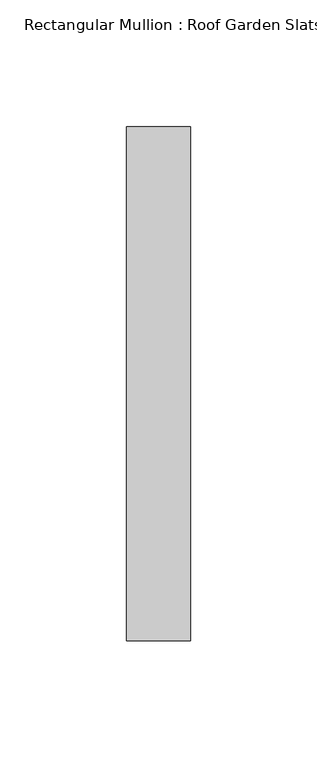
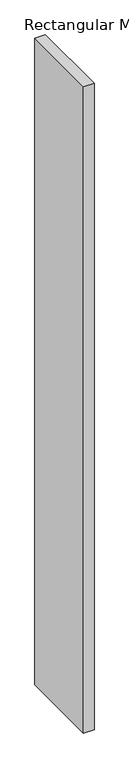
"""IFC4 building model written with IfcOpenShell, lengths in millimetres: member geometry, Rectangular Mullion : Roof Garden Slats."""

import ifcopenshell
import ifcopenshell.guid

model = None  # the IFC model being written
_history = None  # IfcOwnerHistory: only IFC2X3 demands one
_inside = {}  # id of a spatial element -> (the spatial element, [elements in it])
_under = {}  # id of a project, library or spatial element -> (it, [spatial elements below it])
_declared = {}  # id of a project -> (the project, [libraries it declares])
_typed = {}  # id of a type object -> (the type object, [elements of that type])
_made_of = {}  # id of a material, layer set ... -> (it, [elements and type objects made of it])


def new_model(schema):
    """Start an empty IFC model of exactly this schema.

    Asked for "IFC4X3", IfcOpenShell would pick the latest addendum, in which some entities
    have other attributes; the version numbers below select the first issue.
    IFC2X3 requires an IfcOwnerHistory on every rooted entity: one is made here for all.
    """
    global model, _history
    if schema == "IFC4X3":
        model = ifcopenshell.file(schema_version=(4, 3, 0, 0))
    else:
        model = ifcopenshell.file(schema=schema)
    _inside.clear()
    _under.clear()
    _declared.clear()
    _typed.clear()
    _made_of.clear()
    _history = None
    if model.schema == "IFC2X3":
        org = make("IfcOrganization", Name="unknown")
        user = make(
            "IfcPersonAndOrganization",
            ThePerson=make("IfcPerson", FamilyName="unknown"),
            TheOrganization=org,
        )
        app = make(
            "IfcApplication",
            ApplicationDeveloper=org,
            Version="unknown",
            ApplicationFullName="unknown",
            ApplicationIdentifier="unknown",
        )
        _history = make(
            "IfcOwnerHistory",
            OwningUser=user,
            OwningApplication=app,
            ChangeAction="ADDED",
            CreationDate=0,
        )
    return model


def make(cls, **values):
    """One entity of the class cls with the attributes given. An attribute that is None is left unset."""
    return model.create_entity(
        cls, **{name: value for name, value in values.items() if value is not None}
    )


def rooted(cls, **values):
    """An entity with a GlobalId (a new one), such as an element, a storey or a relation."""
    return make(cls, GlobalId=ifcopenshell.guid.new(), OwnerHistory=_history, **values)


def si_unit(unit_type, name, prefix=None):
    """IfcSIUnit, for example si_unit("LENGTHUNIT", "METRE", prefix="MILLI")."""
    return make("IfcSIUnit", UnitType=unit_type, Prefix=prefix, Name=name)


def assignment(units):
    """IfcUnitAssignment: the units of a project."""
    return None if units is None else make("IfcUnitAssignment", Units=units)


def point(xyz):
    """IfcCartesianPoint."""
    return None if xyz is None else make("IfcCartesianPoint", Coordinates=xyz)


def direction(xyz):
    """IfcDirection."""
    return None if xyz is None else make("IfcDirection", DirectionRatios=xyz)


def frame(location, z_axis=None, x_axis=None):
    """IfcAxis2Placement3D, a coordinate frame: its origin and axes. An axis left out is left unset."""
    return make(
        "IfcAxis2Placement3D",
        Location=point(location),
        Axis=direction(z_axis),
        RefDirection=direction(x_axis),
    )


def origin():
    """The frame at (0, 0, 0) with its axes left unset."""
    return frame((0.0, 0.0, 0.0))


def place(relative_to, where):
    """IfcLocalPlacement: puts the frame where relative to a parent placement (None: the world)."""
    return make(
        "IfcLocalPlacement", PlacementRelTo=relative_to, RelativePlacement=where
    )


def context(
    kind, dimensions, precision=None, world=None, true_north=None, identifier=None
):
    """IfcGeometricRepresentationContext, for example the 3D "Model" context."""
    return make(
        "IfcGeometricRepresentationContext",
        ContextIdentifier=identifier,
        ContextType=kind,
        CoordinateSpaceDimension=dimensions,
        Precision=precision,
        WorldCoordinateSystem=world,
        TrueNorth=true_north,
    )


def project(units=None, contexts=None):
    """IfcProject with its units and contexts."""
    return rooted(
        "IfcProject",
        Name="project",
        RepresentationContexts=contexts,
        UnitsInContext=assignment(units),
    )


def spatial(cls, under=None, at=None, **own):
    """A site, building, storey or space (cls), placed at a placement, below another one or the project."""
    s = rooted(cls, ObjectPlacement=at, **own)
    if under is not None:
        _under.setdefault(under.id(), (under, []))[1].append(s)
    return s


def polyline(points):
    """IfcPolyline through the points."""
    return make("IfcPolyline", Points=[point(p) for p in points])


def outline(outer, holes=None, kind="AREA"):
    """IfcArbitraryClosedProfileDef: a profile drawn as a closed curve; with holes, ...WithVoids."""
    if holes is None:
        return make("IfcArbitraryClosedProfileDef", ProfileType=kind, OuterCurve=outer)
    return make(
        "IfcArbitraryProfileDefWithVoids",
        ProfileType=kind,
        OuterCurve=outer,
        InnerCurves=holes,
    )


def extrude(swept, where, along, depth):
    """IfcExtrudedAreaSolid: the profile swept, set in the frame where, extruded along a direction by depth."""
    return make(
        "IfcExtrudedAreaSolid",
        SweptArea=swept,
        Position=where,
        ExtrudedDirection=direction(along),
        Depth=depth,
    )


def shape(context_of_items, identifier, shape_type, items):
    """IfcShapeRepresentation: the items that make up one representation, for example the "Body"."""
    return make(
        "IfcShapeRepresentation",
        ContextOfItems=context_of_items,
        RepresentationIdentifier=identifier,
        RepresentationType=shape_type,
        Items=items,
    )


def source(mapping_origin, context_of_items, identifier, shape_type, items):
    """IfcRepresentationMap: a shape defined once, which mapped items show again and again."""
    return make(
        "IfcRepresentationMap",
        MappingOrigin=mapping_origin,
        MappedRepresentation=shape(context_of_items, identifier, shape_type, items),
    )


def transform(
    local_origin,
    x_axis=None,
    y_axis=None,
    z_axis=None,
    scale=None,
    scale2=None,
    scale3=None,
    uniform=True,
):
    """IfcCartesianTransformationOperator3D, or its non-uniform kind. x_axis, y_axis, z_axis: its Axis1, 2, 3."""
    if uniform:
        return make(
            "IfcCartesianTransformationOperator3D",
            Axis1=direction(x_axis),
            Axis2=direction(y_axis),
            LocalOrigin=point(local_origin),
            Scale=scale,
            Axis3=direction(z_axis),
        )
    return make(
        "IfcCartesianTransformationOperator3DnonUniform",
        Axis1=direction(x_axis),
        Axis2=direction(y_axis),
        LocalOrigin=point(local_origin),
        Scale=scale,
        Axis3=direction(z_axis),
        Scale2=scale2,
        Scale3=scale3,
    )


def mapped(mapping_source, mapping_target):
    """IfcMappedItem: shows the shape of a source again, moved by a transform."""
    return make(
        "IfcMappedItem", MappingSource=mapping_source, MappingTarget=mapping_target
    )


def made_of(thing, what):
    """Note that an element or type object is made of a material, layer set ...; save() writes the relation."""
    if what is not None:
        _made_of.setdefault(what.id(), (what, []))[1].append(thing)
    return thing


def element(
    cls,
    number,
    at=None,
    inside=None,
    cuts=None,
    type_object=None,
    material=None,
    context=None,
    identifier="Body",
    shape_type=None,
    held_by="IfcProductDefinitionShape",
    body=None,
    shapes=None,
    **own,
):
    """One element of the class cls, such as IfcWall. Its Tag is "e" and its number.

    at: its placement. inside: the storey or other place that contains it. cuts: it is an
    opening in that element (IfcRelVoidsElement). A single representation is given by context,
    identifier, shape_type and body (its items); several are given by shapes. held_by: the class
    of the entity that holds the representations. save() writes the other relations.
    """
    e = rooted(cls, Tag="e%d" % number, ObjectPlacement=at, **own)
    if body is not None:
        shapes = [shape(context, identifier, shape_type, body)]
    if shapes is not None:
        e.Representation = make(held_by, Representations=shapes)
    if inside is not None:
        _inside.setdefault(inside.id(), (inside, []))[1].append(e)
    if cuts is not None:
        rooted(
            "IfcRelVoidsElement", RelatingBuildingElement=cuts, RelatedOpeningElement=e
        )
    if type_object is not None:
        _typed.setdefault(type_object.id(), (type_object, []))[1].append(e)
    return made_of(e, material)


def aggregate(whole, parts):
    """IfcRelAggregates: a whole, such as a stair, and the parts it consists of."""
    return rooted("IfcRelAggregates", RelatingObject=whole, RelatedObjects=parts)


def save(model, path):
    """Write the relations noted so far, then the file.

    IfcRelAggregates (storeys below a building ...), IfcRelContainedInSpatialStructure (elements
    in a storey), IfcRelDefinesByType, IfcRelAssociatesMaterial and IfcRelDeclares: one each for
    every whole, place, type object, material and project.
    """
    for whole, parts in _under.values():
        aggregate(whole, parts)
    for where, things in _inside.values():
        rooted(
            "IfcRelContainedInSpatialStructure",
            RelatedElements=things,
            RelatingStructure=where,
        )
    for kind, things in _typed.values():
        rooted("IfcRelDefinesByType", RelatedObjects=things, RelatingType=kind)
    for what, things in _made_of.values():
        rooted("IfcRelAssociatesMaterial", RelatedObjects=things, RelatingMaterial=what)
    for by, libraries in _declared.values():
        rooted("IfcRelDeclares", RelatingContext=by, RelatedDefinitions=libraries)
    model.write(path)


def rectangular_mullion_roof_garden_slats_c837d299(model_context):
    return source(origin(), model_context, "Body", "SweptSolid", [
        extrude(outline(polyline([(12.7, 139.7), (12.7, -63.5), (-12.7, -63.5), (-12.7, 139.7), (12.7, 139.7)])), frame((0.0, 0.0, -1650.4343364), z_axis=(0.0, 0.0, 1.0), x_axis=(1.0, 0.0, 0.0)), (0.0, 0.0, 1.0), 1650.4343364),
    ])


if __name__ == "__main__":
    model = new_model("IFC4")
    model_context = context("Model", 3, world=origin())
    ifc_project = project(units=[si_unit("LENGTHUNIT", "METRE", prefix="MILLI")], contexts=[model_context])
    site = spatial("IfcSite", under=ifc_project)
    building = spatial("IfcBuilding", under=site)
    placement = place(None, origin())
    rectangular_mullion_roof_garden_slats_shape = rectangular_mullion_roof_garden_slats_c837d299(model_context)
    element("IfcMember", 1, ObjectType="Rectangular Mullion : Roof Garden Slats", at=placement, inside=building, context=model_context, shape_type="MappedRepresentation", body=[
        mapped(rectangular_mullion_roof_garden_slats_shape, transform((0.0, 0.0, 0.0), x_axis=(1.0, 0.0, 0.0), y_axis=(0.0, 1.0, 0.0), z_axis=(0.0, 0.0, 1.0))),
    ])
    save(model, "model.ifc")
